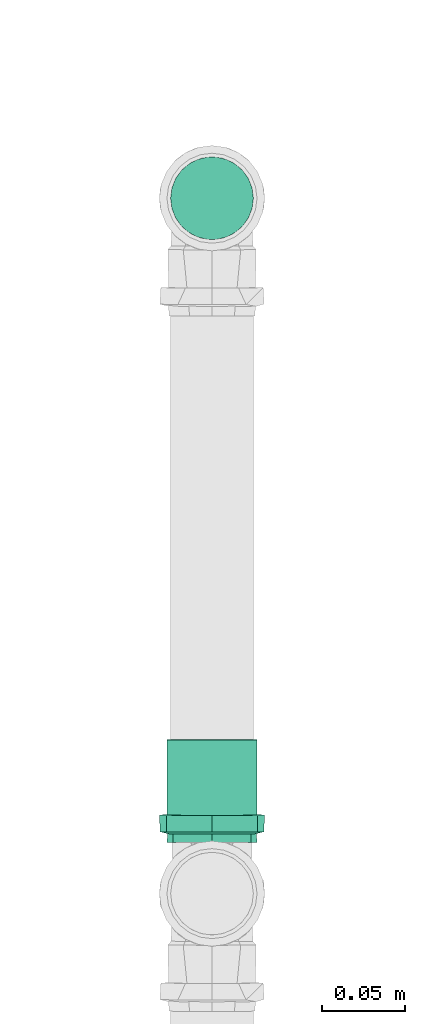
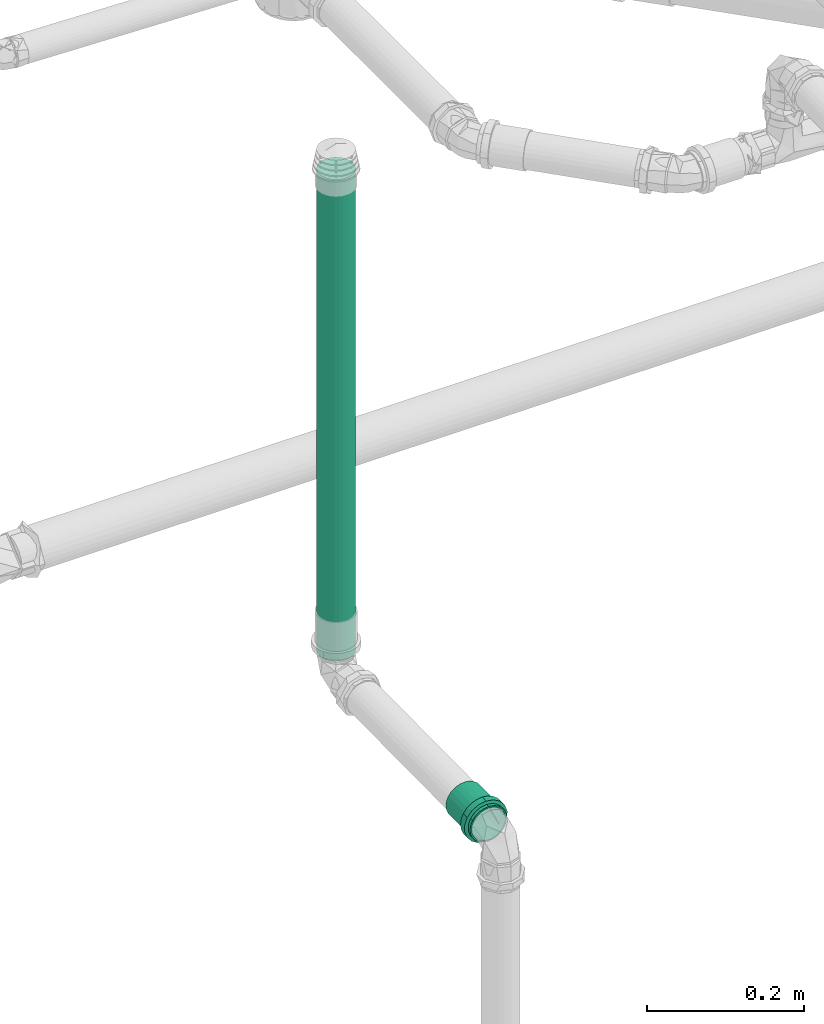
# One storey, part 249 of 589: 1 flow fitting, 1 flow segment.
"""IFC2X3 building model written with IfcOpenShell, lengths in millimetres."""

from ifc_helpers import new_model, entity, si_unit, converted_unit, derived_unit, direction, frame, origin, origin_2d_with_axis, place, context, subcontext, project, spatial, circle, extrude, faceted_brep, source, transform, mapped, material, type_object, type_shapes, element, save


model = new_model("IFC2X3")

# Units and contexts
model_context = context("Model", 3, precision=0.01, world=origin(), true_north=direction((6.123031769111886e-17, 1.0)))
body_context = subcontext(model_context, "Body", "Model", "MODEL_VIEW")
ifc_project = project(units=[si_unit("LENGTHUNIT", "METRE", prefix="MILLI"), si_unit("AREAUNIT", "SQUARE_METRE"), si_unit("VOLUMEUNIT", "CUBIC_METRE"), converted_unit("PLANEANGLEUNIT", "DEGREE", entity("IfcRatioMeasure", 0.017453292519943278), si_unit("PLANEANGLEUNIT", "RADIAN"), dimensions=[0, 0, 0, 0, 0, 0, 0]), si_unit("MASSUNIT", "GRAM", prefix="KILO"), derived_unit("MASSDENSITYUNIT", [(si_unit("MASSUNIT", "GRAM", prefix="KILO"), 1), (si_unit("LENGTHUNIT", "METRE"), -3)]), derived_unit("IONCONCENTRATIONUNIT", [(si_unit("MASSUNIT", "GRAM", prefix="KILO"), 1), (si_unit("LENGTHUNIT", "METRE"), -3)]), derived_unit("MOMENTOFINERTIAUNIT", [(si_unit("LENGTHUNIT", "METRE"), 4)]), si_unit("TIMEUNIT", "SECOND"), si_unit("FREQUENCYUNIT", "HERTZ"), si_unit("THERMODYNAMICTEMPERATUREUNIT", "DEGREE_CELSIUS"), derived_unit("THERMALTRANSMITTANCEUNIT", [(si_unit("MASSUNIT", "GRAM", prefix="KILO"), 1), (si_unit("THERMODYNAMICTEMPERATUREUNIT", "KELVIN"), -1), (si_unit("TIMEUNIT", "SECOND"), -3)]), derived_unit("THERMALCONDUCTANCEUNIT", [(si_unit("MASSUNIT", "GRAM", prefix="KILO"), 1), (si_unit("THERMODYNAMICTEMPERATUREUNIT", "KELVIN"), -1), (si_unit("TIMEUNIT", "SECOND"), -3), (si_unit("LENGTHUNIT", "METRE"), 1)]), derived_unit("VOLUMETRICFLOWRATEUNIT", [(si_unit("LENGTHUNIT", "METRE"), 3), (si_unit("TIMEUNIT", "SECOND"), -1)]), derived_unit("MASSFLOWRATEUNIT", [(si_unit("MASSUNIT", "GRAM", prefix="KILO"), 1), (si_unit("TIMEUNIT", "SECOND"), -1)]), derived_unit("ROTATIONALFREQUENCYUNIT", [(si_unit("TIMEUNIT", "SECOND"), -1)]), si_unit("ELECTRICCURRENTUNIT", "AMPERE"), si_unit("ELECTRICVOLTAGEUNIT", "VOLT"), si_unit("POWERUNIT", "WATT"), si_unit("FORCEUNIT", "NEWTON", prefix="KILO"), si_unit("ILLUMINANCEUNIT", "LUX"), si_unit("LUMINOUSFLUXUNIT", "LUMEN"), si_unit("LUMINOUSINTENSITYUNIT", "CANDELA"), derived_unit("USERDEFINED", [(si_unit("MASSUNIT", "GRAM", prefix="KILO"), -1), (si_unit("LENGTHUNIT", "METRE"), -2), (si_unit("TIMEUNIT", "SECOND"), 3), (si_unit("LUMINOUSFLUXUNIT", "LUMEN"), 1)]), derived_unit("USERDEFINED", [(si_unit("MASSUNIT", "GRAM", prefix="KILO"), 1), (si_unit("TIMEUNIT", "SECOND"), -3), (si_unit("LENGTHUNIT", "METRE"), 3), (si_unit("ELECTRICCURRENTUNIT", "AMPERE"), -2)]), derived_unit("SOUNDPOWERUNIT", [(si_unit("MASSUNIT", "GRAM", prefix="KILO"), 1), (si_unit("TIMEUNIT", "SECOND"), -3), (si_unit("LENGTHUNIT", "METRE"), 2)]), derived_unit("SOUNDPRESSUREUNIT", [(si_unit("MASSUNIT", "GRAM", prefix="KILO"), 1), (si_unit("LENGTHUNIT", "METRE"), -1), (si_unit("TIMEUNIT", "SECOND"), -2)]), derived_unit("LINEARVELOCITYUNIT", [(si_unit("LENGTHUNIT", "METRE"), 1), (si_unit("TIMEUNIT", "SECOND"), -1)]), si_unit("PRESSUREUNIT", "PASCAL"), derived_unit("USERDEFINED", [(si_unit("MASSUNIT", "GRAM", prefix="KILO"), 1), (si_unit("LENGTHUNIT", "METRE"), -2), (si_unit("TIMEUNIT", "SECOND"), -2)]), derived_unit("LINEARFORCEUNIT", [(si_unit("MASSUNIT", "GRAM", prefix="KILO"), 1), (si_unit("TIMEUNIT", "SECOND"), -2)]), derived_unit("PLANARFORCEUNIT", [(si_unit("MASSUNIT", "GRAM", prefix="KILO"), 1), (si_unit("LENGTHUNIT", "METRE"), -1), (si_unit("TIMEUNIT", "SECOND"), -2)]), derived_unit("SPECIFICHEATCAPACITYUNIT", [(si_unit("THERMODYNAMICTEMPERATUREUNIT", "KELVIN"), -1), (si_unit("LENGTHUNIT", "METRE"), 2), (si_unit("TIMEUNIT", "SECOND"), -2)]), derived_unit("HEATINGVALUEUNIT", [(si_unit("LENGTHUNIT", "METRE"), 2), (si_unit("TIMEUNIT", "SECOND"), -2)]), derived_unit("VAPORPERMEABILITYUNIT", [(si_unit("LENGTHUNIT", "METRE"), -1), (si_unit("TIMEUNIT", "SECOND"), 1)]), derived_unit("DYNAMICVISCOSITYUNIT", [(si_unit("MASSUNIT", "GRAM", prefix="KILO"), 1), (si_unit("TIMEUNIT", "SECOND"), -1), (si_unit("LENGTHUNIT", "METRE"), -1)]), derived_unit("THERMALEXPANSIONCOEFFICIENTUNIT", [(si_unit("THERMODYNAMICTEMPERATUREUNIT", "KELVIN"), -1)]), derived_unit("MODULUSOFELASTICITYUNIT", [(si_unit("MASSUNIT", "GRAM", prefix="KILO"), 1), (si_unit("LENGTHUNIT", "METRE"), -1), (si_unit("TIMEUNIT", "SECOND"), -2)]), derived_unit("ISOTHERMALMOISTURECAPACITYUNIT", [(si_unit("LENGTHUNIT", "METRE"), 3), (si_unit("MASSUNIT", "GRAM", prefix="KILO"), -1)]), derived_unit("MOISTUREDIFFUSIVITYUNIT", [(si_unit("TIMEUNIT", "SECOND"), -1), (si_unit("LENGTHUNIT", "METRE"), 2)])], contexts=[model_context])

# Site, building, storey
site_placement = place(None, origin())
site = spatial("IfcSite", under=ifc_project, at=site_placement, Name="Default", CompositionType="ELEMENT")
building_placement = place(site_placement, origin())
building = spatial("IfcBuilding", under=site, at=building_placement, CompositionType="ELEMENT")
storey_placement = place(building_placement, frame((0.0, 0.0, 100.0)))
storey = spatial("IfcBuildingStorey", under=building, at=storey_placement, Name="TÉRREO", CompositionType="ELEMENT", Elevation=100.0)

# Flow segment
pipe_segment_type = type_object("IfcPipeSegmentType", Name="Tipos de tubos:PVC Esgoto Série Normal", PredefinedType="NOTDEFINED")
flow_segment_placement = place(storey_placement, origin())
element("IfcFlowSegment", 1, at=flow_segment_placement, inside=storey, type_object=pipe_segment_type, Name="Tipos de tubos:PVC Esgoto Série Normal", ObjectType="Tipos de tubos:PVC Esgoto Série Normal", context=body_context, shape_type="SweptSolid", body=[
    extrude(circle(Radius=25.0, at=origin_2d_with_axis()), frame((2699.4844981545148, 1937.729007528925, 3048.3412999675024), z_axis=(0.0, 0.0, 1.0), x_axis=(-1.0, 0.0, 0.0)), (0.0, 0.0, 1.0), 750.3587000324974),
])

# Flow fitting
ifc_material = material(Name="PVC Série Normal")
pipe_fitting_type = type_object("IfcPipeFittingType", Name="PVC Esgoto_Luva Simples para Conexão_Rodrigo MEP:Standard", PredefinedType="NOTDEFINED", material=ifc_material)
shared_shape = source(origin(), body_context, "Body", "Brep", [
    faceted_brep([(16.599999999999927, 15.900000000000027, -27.53960784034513), (16.599999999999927, 22.485995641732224, -22.485995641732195), (16.599999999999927, 13.599999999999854, -23.555890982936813), (16.599999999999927, 7.039878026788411, -26.273182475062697), (16.599999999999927, 8.2304456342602, -30.71644127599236), (16.599999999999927, 19.233304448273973, -19.233304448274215), (16.599999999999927, 27.539607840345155, -15.899999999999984), (16.599999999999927, 23.55589098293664, -13.600000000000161), (16.599999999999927, 26.273182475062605, -7.03987802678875), (16.599999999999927, 30.716441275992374, -8.230445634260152), (16.599999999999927, 27.2, 0.0), (16.599999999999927, 31.8, 0.0), (16.599999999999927, 26.273182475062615, 7.0398780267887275), (16.599999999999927, 30.71644127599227, 8.23044563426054), (16.599999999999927, 23.555890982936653, 13.60000000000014), (16.599999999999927, 27.539607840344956, 15.900000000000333), (16.599999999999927, 19.233304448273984, 19.2333044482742), (16.599999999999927, 22.485995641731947, 22.48599564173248), (16.599999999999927, 13.599999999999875, 23.555890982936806), (16.599999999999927, 15.899999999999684, 27.53960784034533), (16.599999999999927, 7.039878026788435, 26.27318247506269), (16.599999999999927, 8.230445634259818, 30.716441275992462), (16.599999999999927, 0.0, 27.2), (16.599999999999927, 0.0, 31.8), (16.599999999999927, -7.039878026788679, 26.273182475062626), (16.599999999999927, -8.230445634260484, 30.716441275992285), (16.599999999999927, -13.600000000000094, 23.555890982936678), (16.599999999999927, -15.900000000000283, 27.53960784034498), (16.599999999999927, -19.23330444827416, 19.233304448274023), (16.599999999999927, -22.485995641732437, 22.48599564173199), (16.599999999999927, -23.55589098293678, 13.59999999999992), (16.599999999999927, -27.539607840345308, 15.899999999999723), (16.599999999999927, -30.71644127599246, 8.230445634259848), (16.599999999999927, -26.273182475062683, 7.039878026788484), (16.599999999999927, -31.8, 0.0), (16.599999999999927, -27.2, 0.0), (16.599999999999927, -30.71644127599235, -8.23044563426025), (16.599999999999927, -26.273182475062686, -7.03987802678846), (16.599999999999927, -27.53960784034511, -15.90000000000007), (16.599999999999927, -23.55589098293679, -13.599999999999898), (16.599999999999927, -22.485995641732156, -22.485995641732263), (16.599999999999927, -19.233304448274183, -19.233304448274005), (16.599999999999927, -15.899999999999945, -27.53960784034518), (16.599999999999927, -13.600000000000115, -23.555890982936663), (16.599999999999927, -8.230445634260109, -30.716441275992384), (16.599999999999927, -7.039878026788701, -26.273182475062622), (16.599999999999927, 0.0, -31.8), (16.599999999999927, 0.0, -27.2), (6.500000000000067, -10.708108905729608, 29.429219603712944), (6.500000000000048, -24.359073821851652, 20.44200387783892), (6.500000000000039, -27.120498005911, 15.6595386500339), (6.50000000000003, -29.881922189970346, 10.877073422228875), (6.500000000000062, -15.89769721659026, 27.540937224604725), (6.500000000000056, -20.128385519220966, 23.991470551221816), (6.50000000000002, -30.840961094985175, 5.438536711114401), (6.5000000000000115, -31.8, 0.0), (6.50000000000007, -5.518520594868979, 31.317501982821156), (6.500000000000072, 5.526376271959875, 31.316116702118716), (6.50000000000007, 0.00392783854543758, 31.316809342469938), (6.500000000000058, 20.134403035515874, 23.986420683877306), (6.500000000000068, 10.715490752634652, 29.42653259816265), (6.500000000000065, 15.904605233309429, 27.536948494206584), (6.500000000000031, 29.8846497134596, 10.869577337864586), (6.500000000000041, 27.12442527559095, 15.652735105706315), (6.5000000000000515, 24.364200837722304, 20.435892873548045), (6.5000000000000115, 31.8, 0.0), (6.499999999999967, 24.364200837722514, -20.435892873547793), (6.499999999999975, 27.12442527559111, -15.652735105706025), (6.499999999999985, 29.884649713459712, -10.869577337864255), (6.4999999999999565, 15.904605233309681, -27.53694849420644), (6.499999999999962, 20.134403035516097, -23.986420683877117), (6.499999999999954, 10.715490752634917, -29.42653259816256), (6.499999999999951, 5.526376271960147, -31.31611670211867), (6.499999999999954, -5.518520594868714, -31.317501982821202), (6.499999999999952, 0.003927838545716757, -31.316809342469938), (6.499999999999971, -20.128385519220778, -23.99147055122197), (6.499999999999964, -15.897697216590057, -27.54093722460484), (6.499999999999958, -10.70810890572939, -29.42921960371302), (6.499999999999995, -29.881922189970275, -10.877073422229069), (6.499999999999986, -27.12049800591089, -15.659538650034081), (6.499999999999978, -24.359073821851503, -20.442003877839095), (6.500000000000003, -30.840961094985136, -5.438536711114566), (6.499999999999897, -30.696173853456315, -6.259599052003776), (62.0, 13.600000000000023, -23.55589098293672), (62.0, 19.233304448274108, -19.23330444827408), (62.0, 12.499999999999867, -21.650635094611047), (62.0, 6.470476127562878, -24.14814565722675), (62.0, 7.039878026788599, -26.273182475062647), (62.0, 17.677669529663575, -17.677669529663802), (62.0, 23.55589098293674, -13.599999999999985), (62.0, 21.65063509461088, -12.50000000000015), (62.0, 24.148145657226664, -6.470476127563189), (62.0, 26.27318247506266, -7.039878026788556), (62.0, 25.0, 0.0), (62.0, 27.2, 0.0), (62.0, 24.148145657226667, 6.4704761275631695), (62.0, 26.273182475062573, 7.03987802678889), (62.0, 21.650635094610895, 12.500000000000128), (62.0, 23.555890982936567, 13.600000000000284), (62.0, 17.67766952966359, 17.67766952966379), (62.0, 19.233304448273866, 19.233304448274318), (62.0, 12.499999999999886, 21.650635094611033), (62.0, 13.59999999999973, 23.55589098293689), (62.0, 6.4704761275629, 24.14814565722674), (62.0, 7.039878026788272, 26.273182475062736), (62.0, 0.0, 25.0), (62.0, 0.0, 27.2), (62.0, -6.470476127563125, 24.148145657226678), (62.0, -7.039878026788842, 26.273182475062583), (62.0, -12.500000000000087, 21.650635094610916), (62.0, -13.600000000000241, 23.555890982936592), (62.0, -17.677669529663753, 17.677669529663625), (62.0, -19.233304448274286, 19.2333044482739), (62.0, -21.65063509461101, 12.499999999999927), (62.0, -23.555890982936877, 13.599999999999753), (62.0, -26.27318247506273, 7.039878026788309), (62.0, -24.14814565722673, 6.470476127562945), (62.0, -27.2, 0.0), (62.0, -25.0, 0.0), (62.0, -26.27318247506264, -7.0398780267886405), (62.0, -24.148145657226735, -6.470476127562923), (62.0, -23.5558909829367, -13.600000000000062), (62.0, -21.650635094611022, -12.499999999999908), (62.0, -19.233304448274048, -19.233304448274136), (62.0, -17.67766952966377, -17.677669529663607), (62.0, -13.599999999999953, -23.555890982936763), (62.0, -12.500000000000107, -21.650635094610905), (62.0, -7.039878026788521, -26.27318247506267), (62.0, -6.470476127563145, -24.148145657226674), (62.0, 0.0, -27.2), (62.0, 0.0, -25.0), (0.0, 12.499999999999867, -21.650635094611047), (0.0, 19.233304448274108, -19.23330444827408), (0.0, 13.600000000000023, -23.55589098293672), (0.0, 6.470476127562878, -24.14814565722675), (0.0, 17.677669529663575, -17.677669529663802), (0.0, 23.55589098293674, -13.599999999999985), (0.0, 21.65063509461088, -12.50000000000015), (0.0, 24.148145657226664, -6.470476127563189), (0.0, 26.27318247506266, -7.039878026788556), (0.0, 25.0, 0.0), (0.0, 27.2, 0.0), (0.0, 24.148145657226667, 6.4704761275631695), (0.0, 26.273182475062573, 7.03987802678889), (0.0, 21.650635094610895, 12.500000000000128), (0.0, 23.555890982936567, 13.600000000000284), (0.0, 17.67766952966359, 17.67766952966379), (0.0, 19.233304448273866, 19.233304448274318), (0.0, 12.499999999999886, 21.650635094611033), (0.0, 13.59999999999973, 23.55589098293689), (0.0, 6.4704761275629, 24.14814565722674), (0.0, 7.039878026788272, 26.273182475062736), (0.0, 0.0, 25.0), (0.0, 0.0, 27.2), (0.0, -6.470476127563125, 24.148145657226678), (0.0, -7.039878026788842, 26.273182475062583), (0.0, -12.500000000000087, 21.650635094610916), (0.0, -13.600000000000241, 23.555890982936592), (0.0, -17.677669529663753, 17.677669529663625), (0.0, -19.233304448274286, 19.2333044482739), (0.0, -21.65063509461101, 12.499999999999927), (0.0, -23.555890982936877, 13.599999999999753), (0.0, -26.27318247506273, 7.039878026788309), (0.0, -24.14814565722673, 6.470476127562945), (0.0, -27.2, 0.0), (0.0, -25.0, 0.0), (0.0, -26.27318247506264, -7.0398780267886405), (0.0, -24.148145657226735, -6.470476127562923), (0.0, -23.5558909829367, -13.600000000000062), (0.0, -21.650635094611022, -12.499999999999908), (0.0, -19.233304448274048, -19.233304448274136), (0.0, -17.67766952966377, -17.677669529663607), (0.0, -13.599999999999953, -23.555890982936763), (0.0, -12.500000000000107, -21.650635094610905), (0.0, -7.039878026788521, -26.27318247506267), (0.0, -6.470476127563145, -24.148145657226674), (0.0, 0.0, -27.2), (0.0, 0.0, -25.0), (0.0, 7.039878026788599, -26.273182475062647), (5.300000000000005, -26.37968999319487, 4.651830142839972), (5.299999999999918, -26.25584678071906, 5.354122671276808), (5.300000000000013, -25.559379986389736, 9.303660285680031), (5.300000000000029, -20.835434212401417, 17.48498444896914), (5.300000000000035, -17.216732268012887, 20.521006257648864), (5.300000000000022, -23.19740709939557, 13.394322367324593), (5.3000000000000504, -4.720244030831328, 26.787297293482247), (5.300000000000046, -9.15913717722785, 25.172162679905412), (5.299999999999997, -27.2, 0.0), (5.300000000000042, -13.598030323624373, 23.557028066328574), (5.300000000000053, 9.165451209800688, 25.169864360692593), (5.300000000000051, 13.603939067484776, 23.55361632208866), (5.300000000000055, 4.7269633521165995, 26.786112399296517), (5.300000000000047, 17.221879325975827, 20.516686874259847), (5.300000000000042, 20.839819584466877, 17.479757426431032), (5.3000000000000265, 25.56171296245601, 9.297248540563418), (5.299999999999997, 27.2, 0.0), (5.3000000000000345, 23.20076627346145, 13.388502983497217), (5.300000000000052, 0.003359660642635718, 26.786704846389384), (5.299999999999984, 25.56171296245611, -9.29724854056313), (5.299999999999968, 20.839819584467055, -17.47975742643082), (5.2999999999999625, 17.22187932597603, -20.516686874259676), (5.299999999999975, 23.200766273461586, -13.388502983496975), (5.299999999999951, 4.726963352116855, -26.78611239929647), (5.2999999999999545, 9.165451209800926, -25.169864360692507), (5.299999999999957, 13.603939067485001, -23.553616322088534), (5.29999999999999, -26.379689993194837, -4.651830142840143), (5.299999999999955, -9.159137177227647, -25.17216267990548), (5.299999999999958, -13.5980303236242, -23.55702806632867), (5.299999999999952, -4.720244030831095, -26.787297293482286), (5.299999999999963, -17.216732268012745, -20.52100625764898), (5.299999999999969, -20.83543421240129, -17.484984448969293), (5.299999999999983, -25.559379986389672, -9.303660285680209), (5.299999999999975, -23.197407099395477, -13.394322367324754), (5.299999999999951, 0.003359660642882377, -26.78670484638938), (39.0, -25.0, 0.0), (39.0, 25.0, 0.0)], [[[0, 1, 2]], [[0, 2, 3]], [[3, 4, 0]], [[2, 1, 5]], [[6, 5, 1]], [[7, 5, 6]], [[8, 7, 6]], [[8, 6, 9]], [[8, 9, 10]], [[10, 9, 11]], [[12, 10, 11]], [[12, 11, 13]], [[14, 12, 13]], [[14, 13, 15]], [[16, 14, 15]], [[15, 17, 16]], [[17, 18, 16]], [[17, 19, 18]], [[18, 19, 20]], [[21, 20, 19]], [[20, 21, 22]], [[22, 21, 23]], [[22, 23, 24]], [[24, 23, 25]], [[24, 25, 26]], [[27, 26, 25]], [[27, 28, 26]], [[28, 27, 29]], [[30, 28, 29]], [[31, 30, 29]], [[32, 30, 31]], [[33, 30, 32]], [[33, 32, 34]], [[35, 33, 34]], [[36, 35, 34]], [[36, 37, 35]], [[37, 36, 38]], [[39, 37, 38]], [[39, 38, 40]], [[39, 40, 41]], [[40, 42, 41]], [[41, 42, 43]], [[43, 42, 44]], [[44, 45, 43]], [[46, 45, 44]], [[4, 47, 46]], [[46, 47, 45]], [[4, 3, 47]], [[48, 27, 25]], [[31, 29, 49]], [[31, 49, 50, 51]], [[52, 53, 27]], [[32, 51, 54]], [[54, 55, 34]], [[54, 34, 32]], [[25, 56, 48]], [[49, 29, 53]], [[23, 57, 58, 56]], [[59, 19, 17]], [[27, 53, 29]], [[48, 52, 27]], [[31, 51, 32]], [[57, 23, 21]], [[60, 19, 61]], [[15, 62, 63, 64]], [[19, 60, 21]], [[15, 13, 62]], [[17, 64, 59]], [[57, 21, 60]], [[23, 56, 25]], [[15, 64, 17]], [[13, 65, 62]], [[13, 11, 65]], [[59, 61, 19]], [[65, 11, 9]], [[6, 1, 66]], [[6, 66, 67, 68]], [[69, 70, 0]], [[68, 65, 9]], [[71, 69, 0]], [[71, 0, 4]], [[4, 72, 71]], [[66, 1, 70]], [[46, 73, 74, 72]], [[75, 76, 42]], [[0, 70, 1]], [[75, 42, 40]], [[6, 68, 9]], [[73, 46, 44]], [[77, 42, 76]], [[38, 78, 79, 80]], [[42, 77, 44]], [[38, 36, 78]], [[40, 80, 75]], [[73, 44, 77]], [[46, 72, 4]], [[38, 80, 40]], [[36, 81, 82, 78]], [[55, 81, 34]], [[34, 81, 36]], [[83, 84, 85]], [[83, 85, 86]], [[86, 87, 83]], [[85, 84, 88]], [[89, 88, 84]], [[88, 89, 90]], [[90, 89, 91]], [[92, 91, 89]], [[92, 93, 91]], [[93, 92, 94]], [[95, 93, 94]], [[94, 96, 95]], [[95, 96, 97]], [[98, 97, 96]], [[97, 98, 99]], [[99, 98, 100]], [[101, 99, 100]], [[100, 102, 101]], [[101, 102, 103]], [[104, 103, 102]], [[103, 104, 105]], [[105, 104, 106]], [[105, 106, 107]], [[107, 106, 108]], [[107, 108, 109]], [[110, 109, 108]], [[110, 111, 109]], [[111, 110, 112]], [[112, 113, 111]], [[114, 113, 112]], [[113, 114, 115]], [[115, 116, 113]], [[117, 116, 115]], [[117, 118, 116]], [[119, 118, 117]], [[119, 120, 118]], [[120, 119, 121]], [[121, 122, 120]], [[122, 121, 123]], [[122, 123, 124]], [[123, 125, 124]], [[124, 125, 126]], [[126, 125, 127]], [[127, 128, 126]], [[129, 128, 127]], [[87, 130, 129]], [[129, 130, 128]], [[87, 86, 130]], [[131, 132, 133]], [[134, 131, 133]], [[135, 132, 131]], [[132, 135, 136]], [[137, 136, 135]], [[138, 136, 137]], [[136, 138, 139]], [[138, 140, 139]], [[141, 139, 140]], [[141, 140, 142]], [[142, 143, 141]], [[144, 143, 142]], [[143, 144, 145]], [[146, 145, 144]], [[147, 145, 146]], [[147, 146, 148]], [[148, 149, 147]], [[150, 149, 148]], [[149, 150, 151]], [[152, 151, 150]], [[153, 151, 152]], [[154, 153, 152]], [[155, 153, 154]], [[156, 155, 154]], [[155, 156, 157]], [[156, 158, 157]], [[159, 157, 158]], [[158, 160, 159]], [[159, 160, 161]], [[162, 161, 160]], [[160, 163, 162]], [[162, 163, 164]], [[163, 165, 164]], [[164, 165, 166]], [[165, 167, 166]], [[168, 166, 167]], [[167, 169, 168]], [[170, 168, 169]], [[171, 170, 169]], [[171, 172, 170]], [[173, 172, 171]], [[174, 172, 173]], [[173, 175, 174]], [[174, 175, 176]], [[175, 177, 176]], [[177, 134, 178]], [[176, 177, 178]], [[133, 178, 134]], [[162, 179, 180, 181]], [[159, 182, 183]], [[182, 161, 181, 184]], [[185, 155, 186]], [[161, 162, 181]], [[187, 179, 164]], [[183, 188, 157]], [[183, 157, 159]], [[161, 182, 159]], [[189, 190, 149]], [[189, 149, 151]], [[157, 188, 186]], [[157, 186, 155]], [[153, 155, 185]], [[164, 179, 162]], [[151, 191, 189]], [[147, 192, 193]], [[143, 194, 195]], [[194, 145, 193, 196]], [[143, 195, 141]], [[10, 12, 96, 94]], [[149, 192, 147]], [[153, 185, 197, 191]], [[153, 191, 151]], [[145, 147, 193]], [[190, 192, 149]], [[145, 194, 143]], [[139, 195, 198]], [[132, 199, 200]], [[199, 136, 198, 201]], [[202, 178, 203]], [[136, 139, 198]], [[139, 141, 195]], [[92, 8, 10, 94]], [[133, 203, 178]], [[200, 204, 133]], [[136, 199, 132]], [[205, 164, 166]], [[206, 207, 172]], [[133, 204, 203]], [[206, 172, 174]], [[176, 178, 202]], [[200, 133, 132]], [[174, 208, 206]], [[170, 209, 210]], [[166, 211, 205]], [[211, 168, 210, 212]], [[168, 211, 166]], [[172, 209, 170]], [[176, 202, 213, 208]], [[176, 208, 174]], [[168, 170, 210]], [[207, 209, 172]], [[205, 187, 164]], [[116, 118, 214, 165, 163]], [[156, 109, 111, 158]], [[111, 113, 160, 158]], [[113, 116, 163, 160]], [[107, 109, 156, 154]], [[154, 152, 105, 107]], [[103, 105, 152, 150]], [[103, 150, 148, 101]], [[142, 95, 97, 144]], [[97, 99, 146, 144]], [[99, 101, 148, 146]], [[93, 95, 142, 140, 215]], [[215, 140, 138, 91, 93]], [[135, 131, 85, 88]], [[90, 91, 138, 137]], [[90, 137, 135, 88]], [[86, 85, 131, 134]], [[134, 177, 130, 86]], [[128, 130, 177, 175]], [[128, 175, 173, 126]], [[167, 120, 122, 169]], [[122, 124, 171, 169]], [[124, 126, 173, 171]], [[118, 120, 167, 165, 214]], [[211, 78, 82, 81, 55, 187, 205]], [[79, 78, 211, 212, 210, 80]], [[75, 80, 210, 209, 207, 76]], [[207, 206, 208, 73, 77, 76]], [[213, 202, 72, 74, 73, 208]], [[203, 204, 69, 71, 72, 202]], [[198, 195, 65, 68]], [[199, 201, 198, 68, 67, 66]], [[204, 200, 199, 66, 70, 69]], [[195, 194, 62, 65]], [[197, 185, 56, 58, 57, 191]], [[63, 62, 194, 196, 193, 64]], [[57, 60, 61, 190, 189, 191]], [[193, 192, 190, 61, 59, 64]], [[48, 56, 185, 186, 188, 52]], [[187, 55, 54, 51, 181, 180, 179]], [[182, 184, 181, 51, 50, 49]], [[188, 183, 182, 49, 53, 52]], [[30, 33, 115, 114]], [[117, 115, 33, 35]], [[26, 28, 112, 110]], [[114, 112, 28, 30]], [[24, 26, 110, 108]], [[108, 106, 22, 24]], [[18, 20, 104, 102]], [[100, 16, 18, 102]], [[12, 14, 98, 96]], [[100, 98, 14, 16]], [[104, 20, 22, 106]], [[89, 7, 8, 92]], [[83, 87, 3, 2]], [[7, 89, 84, 5]], [[83, 2, 5, 84]], [[87, 129, 47, 3]], [[43, 45, 127, 125]], [[123, 41, 43, 125]], [[37, 39, 121, 119]], [[123, 121, 39, 41]], [[35, 37, 119, 117]], [[127, 45, 47, 129]]]),
])
type_shapes(pipe_fitting_type, [shared_shape])
flow_fitting_placement = place(storey_placement, frame((2699.4844981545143, 1548.6687605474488, 3013.5093975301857), z_axis=(-1.0, 0.0, 0.0), x_axis=(0.0, 0.9999500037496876, 0.009999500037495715)))
element("IfcFlowFitting", 2, at=flow_fitting_placement, inside=storey, type_object=pipe_fitting_type, material=ifc_material, Name="PVC Esgoto_Luva Simples para Conexão_Rodrigo MEP:Standard", ObjectType="PVC Esgoto_Luva Simples para Conexão_Rodrigo MEP:Standard", context=body_context, shape_type="MappedRepresentation", body=[
    mapped(shared_shape, transform((0.0, 0.0, 0.0), scale=1.0)),
])

save(model, "model.ifc")
